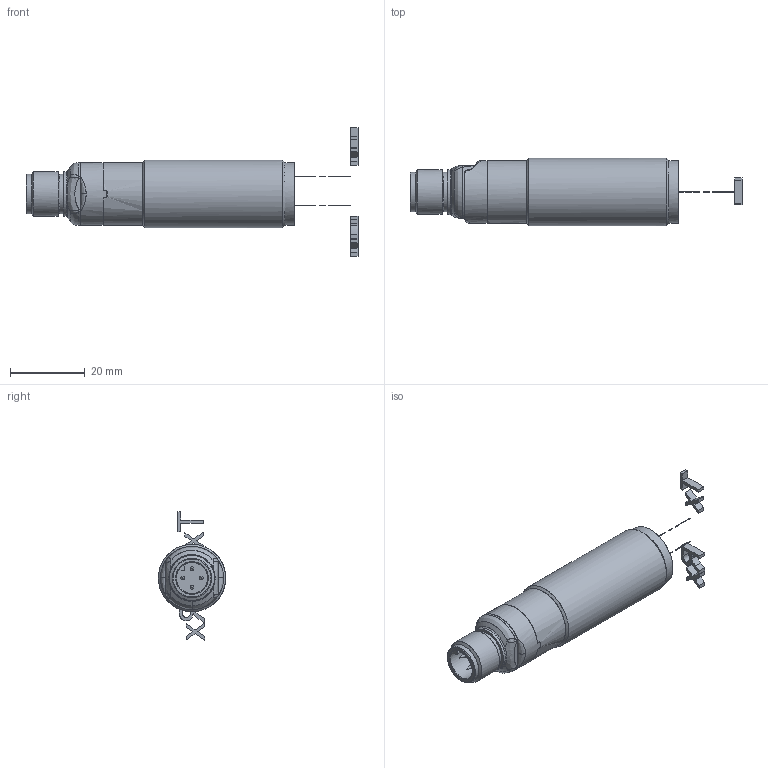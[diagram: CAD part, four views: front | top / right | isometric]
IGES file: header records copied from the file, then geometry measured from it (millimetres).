
Global section: file name: D:\TMP\DSD-0059.igs; preprocessor: I-DEAS 3D IGES Translator 11; date: 20060607.160146; units: millimetre
Bounding box: 88.6 x 17.98 x 34.32 mm (x, y, z)
Volume: 91.1 mm3; surface area: 9103 mm2
Topology: 8 solids, 8 shells, 213 faces, 1015 edges, 913 vertices
Faces by surface type: bspline 213
